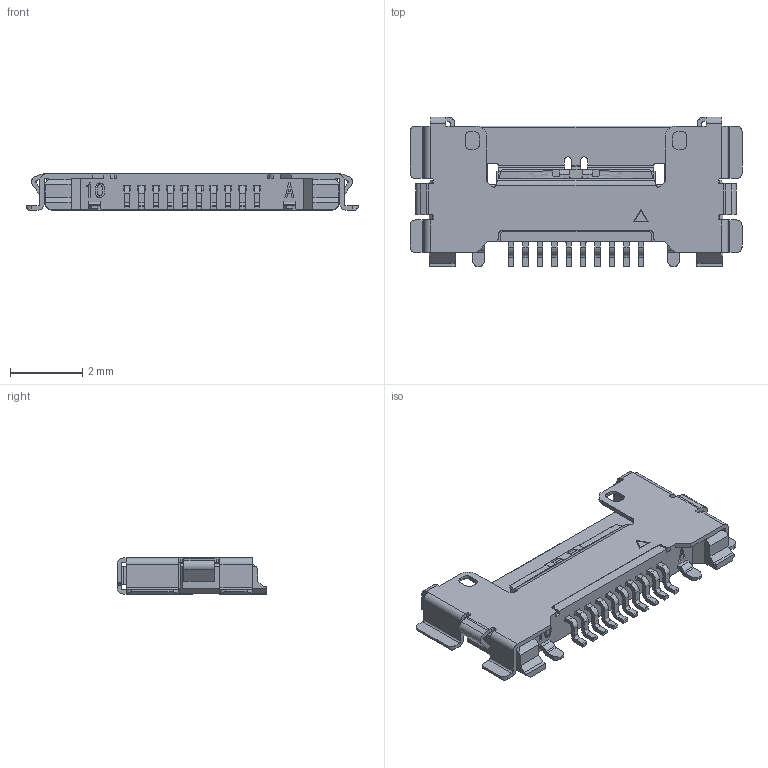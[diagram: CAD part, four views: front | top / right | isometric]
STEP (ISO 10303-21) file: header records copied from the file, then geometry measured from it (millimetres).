
FILE_DESCRIPTION (( 'STEP AP203' ), '1' );
FILE_NAME ('20525-010E-02C RECE ASS''Y STEP R7 ALL.STEP', '2018-08-01T04:37:34', ( '' ), ( '' ), 'SwSTEP 2.0', 'SolidWorks 2017', '' );
FILE_SCHEMA (( 'CONFIG_CONTROL_DESIGN' ));
Length unit declared in the file: millimetre
Products named in the file (1): 20525-010E-02C RECE ASS''Y STEP R7 ALL
Bounding box: 9.2 x 4.15 x 1 mm (x, y, z)
Volume: 18.8 mm3; surface area: 123.2 mm2
Topology: 1 solids, 2 shells, 713 faces, 2061 edges, 1356 vertices
Faces by surface type: plane 484, cylinder 207, bspline 18, cone 4
Entity records: 23960 total; most frequent: CARTESIAN_POINT 4980, ORIENTED_EDGE 4122, DIRECTION 3750, EDGE_CURVE 2061, VECTOR 1570, LINE 1570, VERTEX_POINT 1356, AXIS2_PLACEMENT_3D 1090
